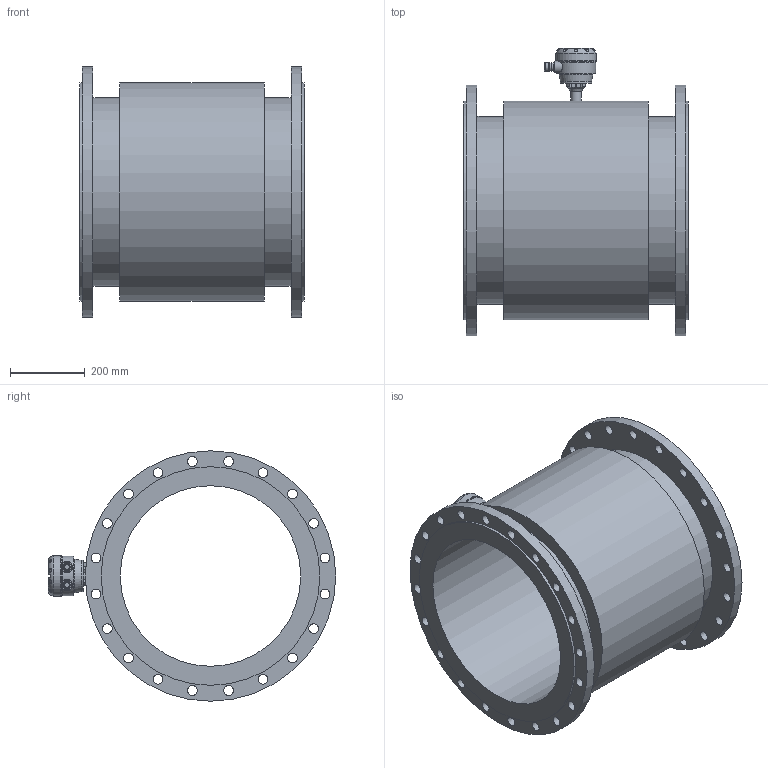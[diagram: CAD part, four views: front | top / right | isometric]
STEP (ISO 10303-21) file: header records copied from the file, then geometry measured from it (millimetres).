
FILE_DESCRIPTION (( 'STEP AP203' ), '1' );
FILE_NAME ('KROHNE_OPTIFLUX_2-4000W-WATERFLUX_3000F_DIN2632_DN500_PN10.STEP', '2011-04-26T11:23:17', ( '' ), ( '' ), 'SwSTEP 2.0', 'SolidWorks 2010', '' );
FILE_SCHEMA (( 'CONFIG_CONTROL_DESIGN' ));
Length unit declared in the file: millimetre
Products named in the file (1): KROHNE_OPTIFLUX_2-4000W-WATERFLUX_3000F_DIN2632_DN500_PN10
Bounding box: 600 x 768.99 x 670 mm (x, y, z)
Volume: 46144153.5 mm3; surface area: 2929703.9 mm2
Topology: 14 solids, 14 shells, 367 faces, 931 edges, 614 vertices
Faces by surface type: plane 158, cylinder 119, bspline 53, torus 18, sphere 13, cone 6
Full cylindrical faces by diameter (mm): 4 x4, 6.6 x8, 13 x2, 20 x2, 23.5 x4, 26 x40, 29 x1, 30 x2, 84 x2, 109 x1, 483 x1, 503 x2, 585 x3, 670 x2
Entity records: 14795 total; most frequent: CARTESIAN_POINT 6616, DIRECTION 1557, ORIENTED_EDGE 1554, EDGE_CURVE 777, EDGE_LOOP 598, AXIS2_PLACEMENT_3D 597, VERTEX_POINT 561, FACE_OUTER_BOUND 458
